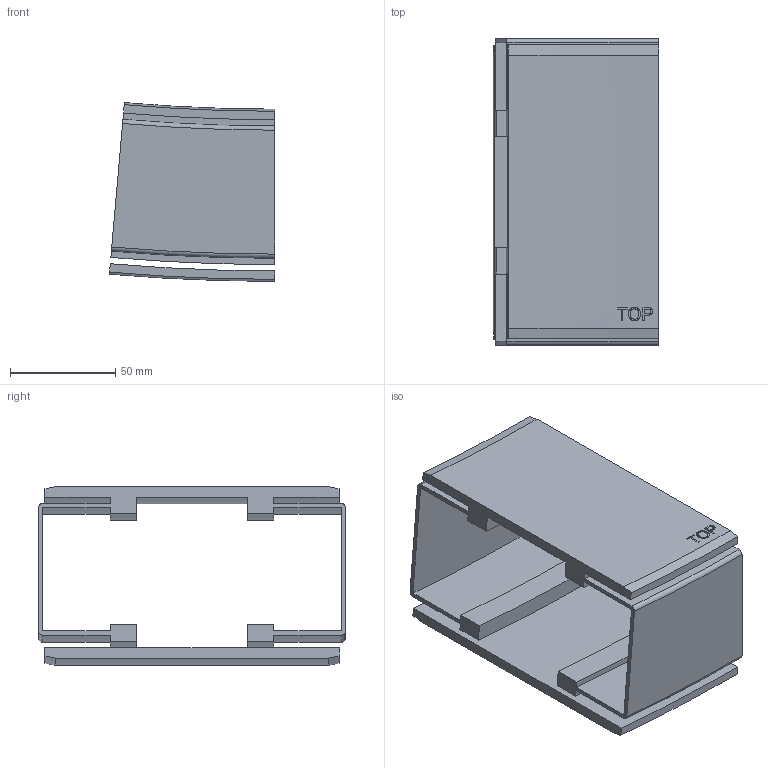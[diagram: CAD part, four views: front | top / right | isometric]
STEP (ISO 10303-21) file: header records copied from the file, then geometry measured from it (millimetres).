
FILE_DESCRIPTION(/* description */ ('VERTIKALKURVA S540 R860'),/* implementation_level */ '2;1');
FILE_NAME(/* name */ '540-5695+140-2000-UPP-01.stp',/* time_stamp */ '2022-09-21T11:04:45+02:00',/* author */ ('Mathias.Dore'),/* organization */ ('CARRYLINE'),/* preprocessor_version */ 'ST-DEVELOPER v19.2',/* originating_system */ 'Autodesk Inventor 2023',/* authorisation */ '');
FILE_SCHEMA (('AUTOMOTIVE_DESIGN { 1 0 10303 214 3 1 1 }'));
Length unit declared in the file: millimetre
Products named in the file (1): 540-5695+140-2000-UPP-01
Bounding box: 78.66 x 146 x 85.12 mm (x, y, z)
Volume: 172384 mm3; surface area: 93904.2 mm2
Topology: 2 solids, 2 shells, 87 faces, 234 edges, 156 vertices
Faces by surface type: plane 40, cylinder 25, bspline 14, cone 4, torus 4
Entity records: 7369 total; most frequent: CARTESIAN_POINT 5170, ORIENTED_EDGE 468, DIRECTION 408, EDGE_CURVE 234, VERTEX_POINT 156, AXIS2_PLACEMENT_3D 141, LINE 126, VECTOR 126
